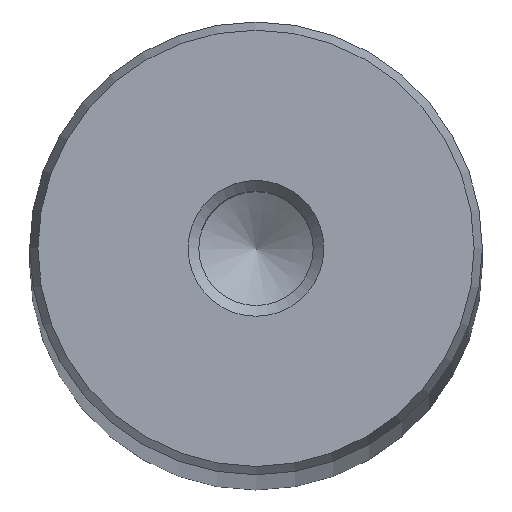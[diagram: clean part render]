
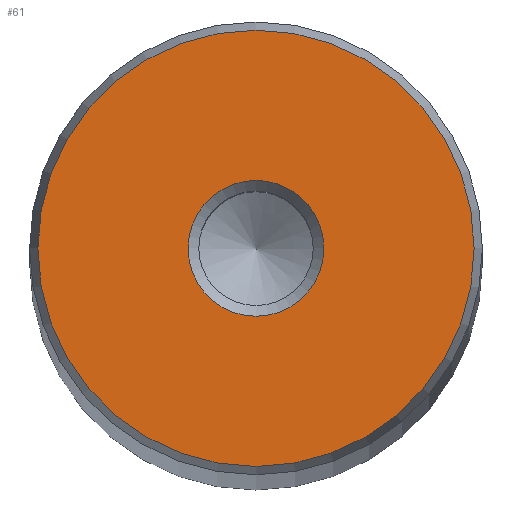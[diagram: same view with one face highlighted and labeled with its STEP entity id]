
A CAD part, top view. The second image highlights one B-rep face of the part: STEP entity #61.
In plain terms, the highlighted planar face has unit normal (0, 0, 1).
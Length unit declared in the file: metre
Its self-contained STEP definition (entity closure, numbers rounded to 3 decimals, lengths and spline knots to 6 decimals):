
#61 = ADVANCED_FACE( '', ( #128, #129 ), #130, .T. );
#128 = FACE_OUTER_BOUND( '', #187, .T. );
#129 = FACE_BOUND( '', #188, .T. );
#130 = PLANE( '', #189 );
#187 = EDGE_LOOP( '', ( #264 ) );
#188 = EDGE_LOOP( '', ( #265 ) );
#189 = AXIS2_PLACEMENT_3D( '', #266, #267, #268 );
#264 = ORIENTED_EDGE( '', *, *, #287, .T. );
#265 = ORIENTED_EDGE( '', *, *, #274, .T. );
#266 = CARTESIAN_POINT( '', ( 0., 0., 0.773 ) );
#267 = DIRECTION( '', ( 0., 0., 1. ) );
#268 = DIRECTION( '', ( 1., 0., 0. ) );
#274 = EDGE_CURVE( '', #304, #304, #305, .T. );
#287 = EDGE_CURVE( '', #322, #322, #323, .T. );
#304 = VERTEX_POINT( '', #341 );
#305 = CIRCLE( '', #342, 0.006 );
#322 = VERTEX_POINT( '', #359 );
#323 = CIRCLE( '', #360, 0.019272 );
#341 = CARTESIAN_POINT( '', ( 0.006, 0., 0.773 ) );
#342 = AXIS2_PLACEMENT_3D( '', #379, #380, #381 );
#359 = CARTESIAN_POINT( '', ( 0.019272, 0., 0.773 ) );
#360 = AXIS2_PLACEMENT_3D( '', #397, #398, #399 );
#379 = CARTESIAN_POINT( '', ( 0., 0., 0.773 ) );
#380 = DIRECTION( '', ( 0., 0., -1. ) );
#381 = DIRECTION( '', ( 1., 0., 0. ) );
#397 = CARTESIAN_POINT( '', ( 0., 0., 0.773 ) );
#398 = DIRECTION( '', ( 0., 0., 1. ) );
#399 = DIRECTION( '', ( 1., 0., 0. ) );
